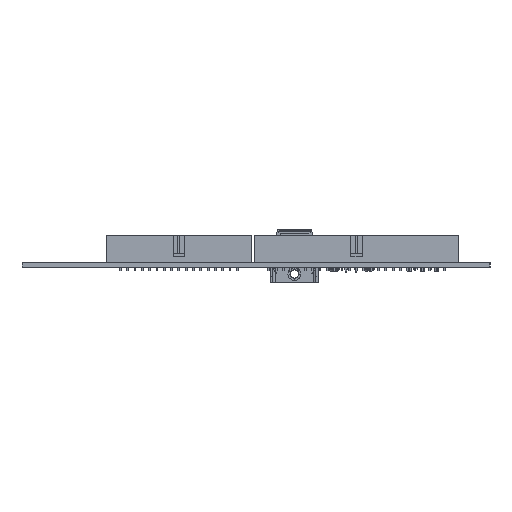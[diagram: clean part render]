
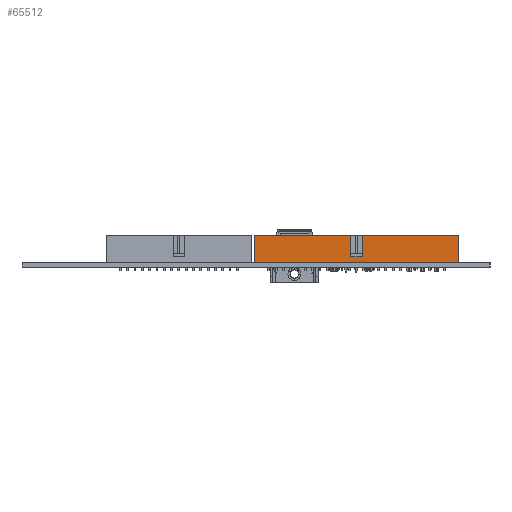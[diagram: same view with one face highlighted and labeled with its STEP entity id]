
A CAD part, left-side view. The second image highlights one B-rep face of the part: STEP entity #65512.
In plain terms, the highlighted planar face has unit normal (-1, 0, 0).
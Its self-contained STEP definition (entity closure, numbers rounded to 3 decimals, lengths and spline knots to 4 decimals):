
#7597=DIRECTION('',(0.,-1.,0.));
#7598=VECTOR('',#7597,2.79);
#7599=CARTESIAN_POINT('',(-2.82,0.02,0.062));
#7600=LINE('',#7599,#7598);
#18396=DIRECTION('',(0.,0.,1.));
#18397=VECTOR('',#18396,0.37);
#18398=CARTESIAN_POINT('',(-2.82,-2.77,0.062));
#18399=LINE('',#18398,#18397);
#18400=DIRECTION('',(0.,0.,1.));
#18401=VECTOR('',#18400,0.37);
#18402=CARTESIAN_POINT('',(-2.82,0.02,0.062));
#18403=LINE('',#18402,#18401);
#18404=DIRECTION('',(0.,0.,-1.));
#18405=VECTOR('',#18404,0.29);
#18406=CARTESIAN_POINT('',(-2.82,-1.295,0.432));
#18407=LINE('',#18406,#18405);
#18408=DIRECTION('',(0.,-1.,0.));
#18409=VECTOR('',#18408,0.16);
#18410=CARTESIAN_POINT('',(-2.82,-1.295,0.142));
#18411=LINE('',#18410,#18409);
#18412=DIRECTION('',(0.,0.,-1.));
#18413=VECTOR('',#18412,0.29);
#18414=CARTESIAN_POINT('',(-2.82,-1.455,0.432));
#18415=LINE('',#18414,#18413);
#18428=DIRECTION('',(0.,-1.,0.));
#18429=VECTOR('',#18428,1.315);
#18430=CARTESIAN_POINT('',(-2.82,0.02,0.432));
#18431=LINE('',#18430,#18429);
#18444=DIRECTION('',(0.,-1.,0.));
#18445=VECTOR('',#18444,1.315);
#18446=CARTESIAN_POINT('',(-2.82,-1.455,0.432));
#18447=LINE('',#18446,#18445);
#37581=CARTESIAN_POINT('',(-2.82,-2.77,0.432));
#37583=VERTEX_POINT('',#37581);
#37587=CARTESIAN_POINT('',(-2.82,0.02,0.432));
#37588=VERTEX_POINT('',#37587);
#37609=CARTESIAN_POINT('',(-2.82,-1.295,0.432));
#37611=VERTEX_POINT('',#37609);
#37613=CARTESIAN_POINT('',(-2.82,-1.455,0.432));
#37615=VERTEX_POINT('',#37613);
#37617=CARTESIAN_POINT('',(-2.82,-1.295,0.142));
#37618=VERTEX_POINT('',#37617);
#37619=CARTESIAN_POINT('',(-2.82,-1.455,0.142));
#37620=VERTEX_POINT('',#37619);
#40029=CARTESIAN_POINT('',(-2.82,-2.77,0.062));
#40031=VERTEX_POINT('',#40029);
#40035=CARTESIAN_POINT('',(-2.82,0.02,0.062));
#40036=VERTEX_POINT('',#40035);
#65491=CARTESIAN_POINT('',(-2.82,0.02,0.062));
#65492=DIRECTION('',(-1.,0.,0.));
#65493=DIRECTION('',(0.,-1.,0.));
#65494=AXIS2_PLACEMENT_3D('',#65491,#65492,#65493);
#65495=PLANE('',#65494);
#65496=ORIENTED_EDGE('',*,*,#48020,.F.);
#65498=ORIENTED_EDGE('',*,*,#65497,.T.);
#65500=ORIENTED_EDGE('',*,*,#65499,.T.);
#65502=ORIENTED_EDGE('',*,*,#65501,.T.);
#65504=ORIENTED_EDGE('',*,*,#65503,.T.);
#65506=ORIENTED_EDGE('',*,*,#65505,.F.);
#65508=ORIENTED_EDGE('',*,*,#65507,.T.);
#65509=ORIENTED_EDGE('',*,*,#65482,.F.);
#65510=EDGE_LOOP('',(#65496,#65498,#65500,#65502,#65504,#65506,#65508,#65509));
#65511=FACE_OUTER_BOUND('',#65510,.F.);
#65512=ADVANCED_FACE('',(#65511),#65495,.T.);
#48020=EDGE_CURVE('',#40036,#40031,#7600,.T.);
#65482=EDGE_CURVE('',#40031,#37583,#18399,.T.);
#65497=EDGE_CURVE('',#40036,#37588,#18403,.T.);
#65499=EDGE_CURVE('',#37588,#37611,#18431,.T.);
#65501=EDGE_CURVE('',#37611,#37618,#18407,.T.);
#65503=EDGE_CURVE('',#37618,#37620,#18411,.T.);
#65505=EDGE_CURVE('',#37615,#37620,#18415,.T.);
#65507=EDGE_CURVE('',#37615,#37583,#18447,.T.);
